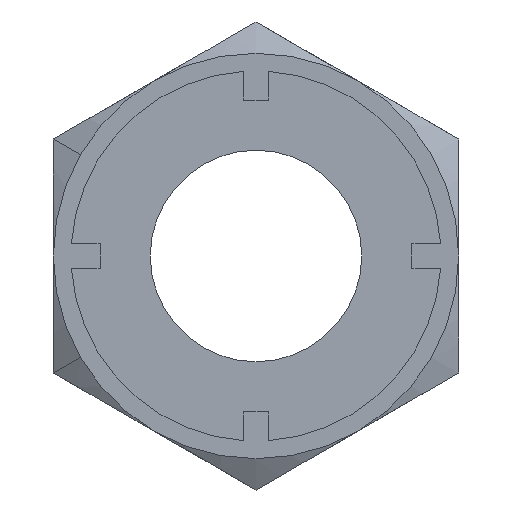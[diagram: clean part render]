
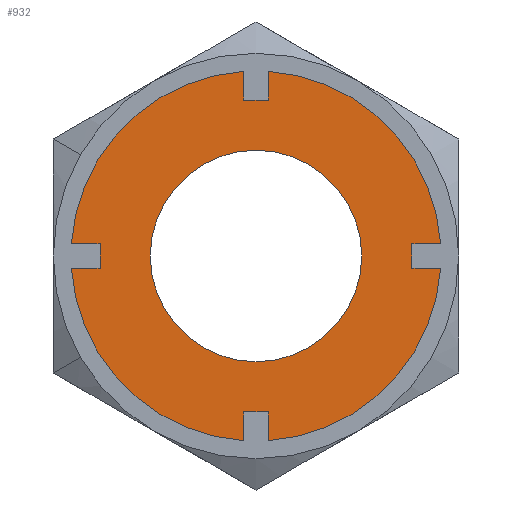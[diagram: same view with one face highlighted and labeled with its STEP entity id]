
A CAD part, left-side view. The second image highlights one B-rep face of the part: STEP entity #932.
In plain terms, the highlighted planar face has unit normal (-1, 0, 0).
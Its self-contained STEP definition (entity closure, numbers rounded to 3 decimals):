
#130=CARTESIAN_POINT('',(-30.0,0.,12.));
#131=VERTEX_POINT('',#130);
#140=CARTESIAN_POINT('',(-30.0,12.,0.0));
#141=VERTEX_POINT('',#140);
#142=CARTESIAN_POINT('',(-30.0,0.0,0.0));
#143=DIRECTION('',(1.0,0.0,0.0));
#144=DIRECTION('',(0.0,1.0,0.0));
#145=AXIS2_PLACEMENT_3D('',#142,#143,#144);
#146=CIRCLE('',#145,12.);
#147=EDGE_CURVE('',#141,#131,#146,.T.);
#332=CARTESIAN_POINT('',(-30.0,0.,-12.));
#333=VERTEX_POINT('',#332);
#342=CARTESIAN_POINT('',(-30.0,-12.,0.));
#343=VERTEX_POINT('',#342);
#344=CARTESIAN_POINT('',(-30.0,0.0,0.0));
#345=DIRECTION('',(1.0,0.0,0.0));
#346=DIRECTION('',(0.0,1.0,0.0));
#347=AXIS2_PLACEMENT_3D('',#344,#345,#346);
#348=CIRCLE('',#347,12.);
#349=EDGE_CURVE('',#343,#333,#348,.T.);
#383=CARTESIAN_POINT('',(-30.0,0.0,0.0));
#384=DIRECTION('',(1.0,0.0,0.0));
#385=DIRECTION('',(0.0,1.0,0.0));
#386=AXIS2_PLACEMENT_3D('',#383,#384,#385);
#387=CIRCLE('',#386,12.);
#388=EDGE_CURVE('',#333,#141,#387,.T.);
#400=CARTESIAN_POINT('',(-30.0,20.953,1.4));
#401=VERTEX_POINT('',#400);
#416=CARTESIAN_POINT('',(-30.0,17.7,1.4));
#417=VERTEX_POINT('',#416);
#424=CARTESIAN_POINT('',(-30.0,20.953,1.4));
#425=DIRECTION('',(0.0,-1.0,0.0));
#426=VECTOR('',#425,3.253);
#427=LINE('',#424,#426);
#428=EDGE_CURVE('',#401,#417,#427,.T.);
#438=CARTESIAN_POINT('',(-30.0,20.953,-1.4));
#439=VERTEX_POINT('',#438);
#448=CARTESIAN_POINT('',(-30.0,17.7,-1.4));
#449=VERTEX_POINT('',#448);
#450=CARTESIAN_POINT('',(-30.0,17.7,-1.4));
#451=DIRECTION('',(0.0,1.0,0.0));
#452=VECTOR('',#451,3.253);
#453=LINE('',#450,#452);
#454=EDGE_CURVE('',#449,#439,#453,.T.);
#485=CARTESIAN_POINT('',(-30.0,17.7,1.4));
#486=DIRECTION('',(0.0,0.0,-1.0));
#487=VECTOR('',#486,2.8);
#488=LINE('',#485,#487);
#489=EDGE_CURVE('',#417,#449,#488,.T.);
#502=CARTESIAN_POINT('',(-30.0,-1.4,20.953));
#503=VERTEX_POINT('',#502);
#518=CARTESIAN_POINT('',(-30.0,-1.4,17.7));
#519=VERTEX_POINT('',#518);
#526=CARTESIAN_POINT('',(-30.0,-1.4,20.953));
#527=DIRECTION('',(0.0,0.0,-1.0));
#528=VECTOR('',#527,3.253);
#529=LINE('',#526,#528);
#530=EDGE_CURVE('',#503,#519,#529,.T.);
#540=CARTESIAN_POINT('',(-30.0,1.4,20.953));
#541=VERTEX_POINT('',#540);
#550=CARTESIAN_POINT('',(-30.0,1.4,17.7));
#551=VERTEX_POINT('',#550);
#552=CARTESIAN_POINT('',(-30.0,1.4,17.7));
#553=DIRECTION('',(0.0,0.0,1.0));
#554=VECTOR('',#553,3.253);
#555=LINE('',#552,#554);
#556=EDGE_CURVE('',#551,#541,#555,.T.);
#587=CARTESIAN_POINT('',(-30.0,-1.4,17.7));
#588=DIRECTION('',(0.0,1.0,0.0));
#589=VECTOR('',#588,2.8);
#590=LINE('',#587,#589);
#591=EDGE_CURVE('',#519,#551,#590,.T.);
#604=CARTESIAN_POINT('',(-30.0,-20.953,-1.4));
#605=VERTEX_POINT('',#604);
#620=CARTESIAN_POINT('',(-30.0,-17.7,-1.4));
#621=VERTEX_POINT('',#620);
#628=CARTESIAN_POINT('',(-30.0,-20.953,-1.4));
#629=DIRECTION('',(0.0,1.0,0.0));
#630=VECTOR('',#629,3.253);
#631=LINE('',#628,#630);
#632=EDGE_CURVE('',#605,#621,#631,.T.);
#642=CARTESIAN_POINT('',(-30.0,-20.953,1.4));
#643=VERTEX_POINT('',#642);
#652=CARTESIAN_POINT('',(-30.0,-17.7,1.4));
#653=VERTEX_POINT('',#652);
#654=CARTESIAN_POINT('',(-30.0,-17.7,1.4));
#655=DIRECTION('',(0.0,-1.0,0.0));
#656=VECTOR('',#655,3.253);
#657=LINE('',#654,#656);
#658=EDGE_CURVE('',#653,#643,#657,.T.);
#689=CARTESIAN_POINT('',(-30.0,-17.7,-1.4));
#690=DIRECTION('',(0.0,0.0,1.0));
#691=VECTOR('',#690,2.8);
#692=LINE('',#689,#691);
#693=EDGE_CURVE('',#621,#653,#692,.T.);
#706=CARTESIAN_POINT('',(-30.0,1.4,-20.953));
#707=VERTEX_POINT('',#706);
#722=CARTESIAN_POINT('',(-30.0,1.4,-17.7));
#723=VERTEX_POINT('',#722);
#730=CARTESIAN_POINT('',(-30.0,1.4,-20.953));
#731=DIRECTION('',(0.0,0.0,1.0));
#732=VECTOR('',#731,3.253);
#733=LINE('',#730,#732);
#734=EDGE_CURVE('',#707,#723,#733,.T.);
#744=CARTESIAN_POINT('',(-30.0,-1.4,-20.953));
#745=VERTEX_POINT('',#744);
#754=CARTESIAN_POINT('',(-30.0,-1.4,-17.7));
#755=VERTEX_POINT('',#754);
#756=CARTESIAN_POINT('',(-30.0,-1.4,-17.7));
#757=DIRECTION('',(0.0,0.0,-1.0));
#758=VECTOR('',#757,3.253);
#759=LINE('',#756,#758);
#760=EDGE_CURVE('',#755,#745,#759,.T.);
#791=CARTESIAN_POINT('',(-30.0,1.4,-17.7));
#792=DIRECTION('',(0.0,-1.0,0.0));
#793=VECTOR('',#792,2.8);
#794=LINE('',#791,#793);
#795=EDGE_CURVE('',#723,#755,#794,.T.);
#807=CARTESIAN_POINT('',(-30.0,0.0,0.0));
#808=DIRECTION('',(1.0,0.0,0.0));
#809=DIRECTION('',(0.0,1.0,0.0));
#810=AXIS2_PLACEMENT_3D('',#807,#808,#809);
#811=CIRCLE('',#810,21.0);
#812=EDGE_CURVE('',#605,#745,#811,.T.);
#831=CARTESIAN_POINT('',(-30.0,0.0,0.0));
#832=DIRECTION('',(1.0,0.0,0.0));
#833=DIRECTION('',(0.0,1.0,0.0));
#834=AXIS2_PLACEMENT_3D('',#831,#832,#833);
#835=CIRCLE('',#834,21.0);
#836=EDGE_CURVE('',#503,#643,#835,.T.);
#863=CARTESIAN_POINT('',(-30.0,0.0,0.0));
#864=DIRECTION('',(1.0,0.0,0.0));
#865=DIRECTION('',(0.0,1.0,0.0));
#866=AXIS2_PLACEMENT_3D('',#863,#864,#865);
#867=CIRCLE('',#866,21.0);
#868=EDGE_CURVE('',#707,#439,#867,.T.);
#879=CARTESIAN_POINT('',(-30.0,0.0,0.0));
#880=DIRECTION('',(1.0,0.0,0.0));
#881=DIRECTION('',(0.0,1.0,0.0));
#882=AXIS2_PLACEMENT_3D('',#879,#880,#881);
#883=CIRCLE('',#882,21.0);
#884=EDGE_CURVE('',#401,#541,#883,.T.);
#897=CARTESIAN_POINT('',(-30.0,-23.049,-23.049));
#898=DIRECTION('',(-1.0,0.0,0.0));
#899=DIRECTION('',(0.0,0.0,1.0));
#900=AXIS2_PLACEMENT_3D('',#897,#898,#899);
#901=PLANE('',#900);
#902=ORIENTED_EDGE('',*,*,#428,.T.);
#903=ORIENTED_EDGE('',*,*,#489,.T.);
#904=ORIENTED_EDGE('',*,*,#454,.T.);
#905=ORIENTED_EDGE('',*,*,#868,.F.);
#906=ORIENTED_EDGE('',*,*,#734,.T.);
#907=ORIENTED_EDGE('',*,*,#795,.T.);
#908=ORIENTED_EDGE('',*,*,#760,.T.);
#909=ORIENTED_EDGE('',*,*,#812,.F.);
#910=ORIENTED_EDGE('',*,*,#632,.T.);
#911=ORIENTED_EDGE('',*,*,#693,.T.);
#912=ORIENTED_EDGE('',*,*,#658,.T.);
#913=ORIENTED_EDGE('',*,*,#836,.F.);
#914=ORIENTED_EDGE('',*,*,#530,.T.);
#915=ORIENTED_EDGE('',*,*,#591,.T.);
#916=ORIENTED_EDGE('',*,*,#556,.T.);
#917=ORIENTED_EDGE('',*,*,#884,.F.);
#918=EDGE_LOOP('',(#902,#903,#904,#905,#906,#907,#908,#909,#910,#911,#912,#913,#914,#915,#916,#917));
#919=FACE_OUTER_BOUND('',#918,.T.);
#920=ORIENTED_EDGE('',*,*,#147,.T.);
#921=CARTESIAN_POINT('',(-30.0,0.0,0.0));
#922=DIRECTION('',(1.0,0.0,0.0));
#923=DIRECTION('',(0.0,1.0,0.0));
#924=AXIS2_PLACEMENT_3D('',#921,#922,#923);
#925=CIRCLE('',#924,12.);
#926=EDGE_CURVE('',#131,#343,#925,.T.);
#927=ORIENTED_EDGE('',*,*,#926,.T.);
#928=ORIENTED_EDGE('',*,*,#349,.T.);
#929=ORIENTED_EDGE('',*,*,#388,.T.);
#930=EDGE_LOOP('',(#920,#927,#928,#929));
#931=FACE_BOUND('',#930,.T.);
#932=ADVANCED_FACE('',(#919,#931),#901,.T.);
